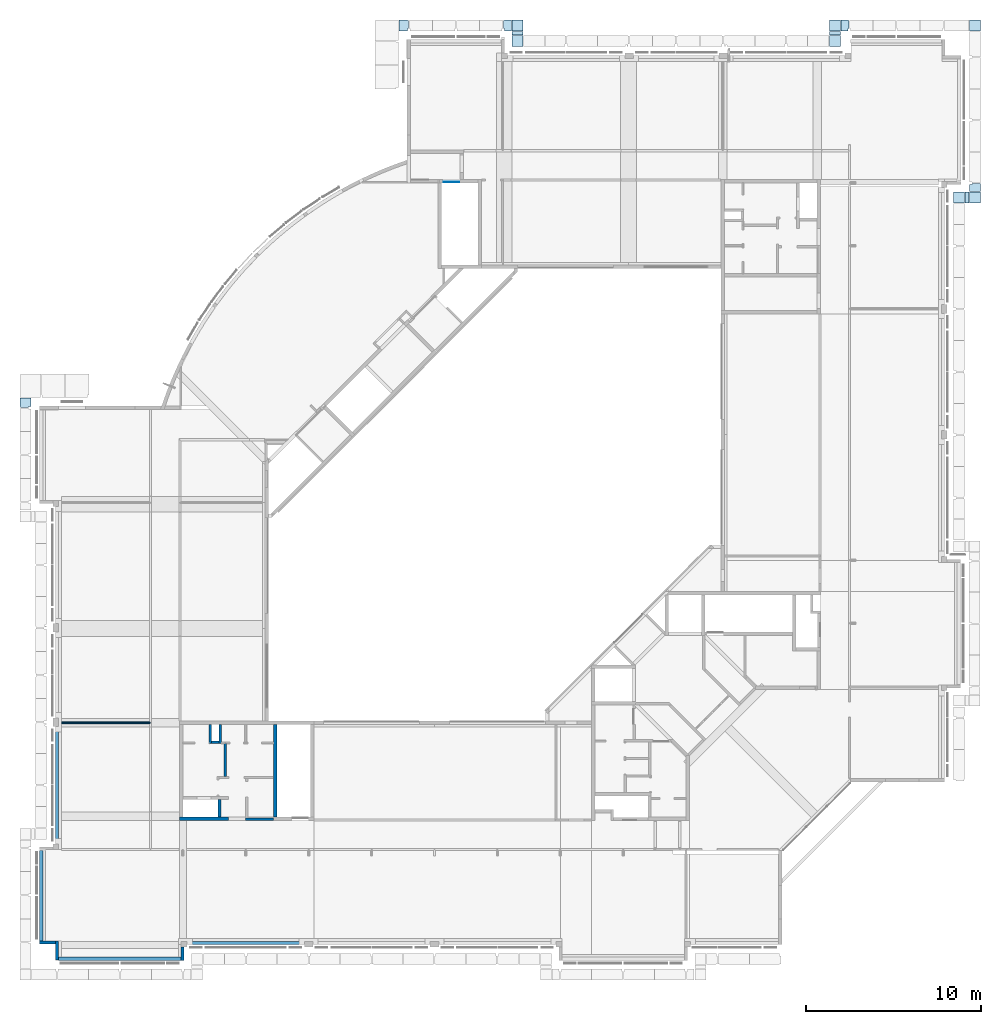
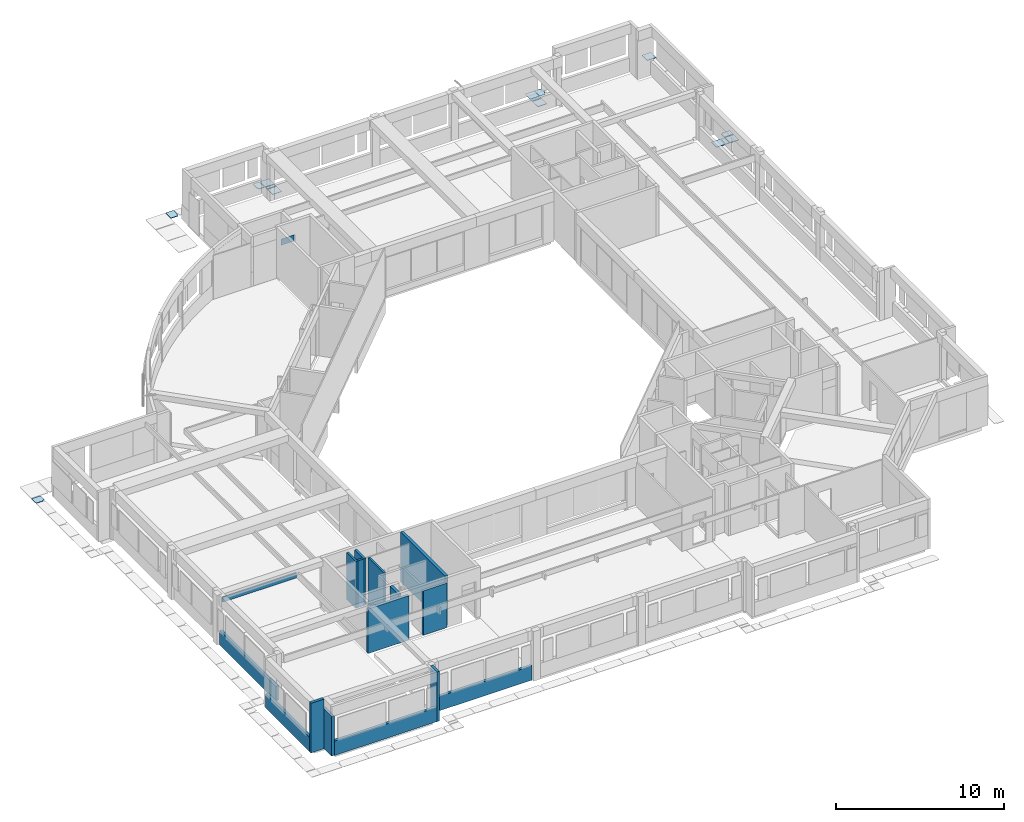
# One storey, part 11 of 26: 16 walls, 15 slabs, 1 plate.
"""IFC4X3_ADD2 building model written with IfcOpenShell, lengths in millimetres."""

from ifc_helpers import new_model, si_unit, direction, frame, frame_2d, origin_with_axes, origin_2d_with_axis, place, context, subcontext, project, spatial, polyline, rectangle, outline, extrude, source, transform, mapped, material, type_object, type_shapes, element, save


model = new_model("IFC4X3_ADD2")

# Units and contexts
model_context = context("Model", 3, precision=1e-05, world=origin_with_axes(), true_north=direction((0.0, 1.0)))
body_context = subcontext(model_context, "Body", "Model", "MODEL_VIEW")
ifc_project = project(units=[si_unit("LENGTHUNIT", "METRE", prefix="MILLI"), si_unit("AREAUNIT", "SQUARE_METRE"), si_unit("VOLUMEUNIT", "CUBIC_METRE"), si_unit("PLANEANGLEUNIT", "RADIAN"), si_unit("TIMEUNIT", "SECOND"), si_unit("MASSUNIT", "GRAM")], contexts=[model_context])

# Site, building, storey
site_placement = place(None, origin_with_axes())
site = spatial("IfcSite", under=ifc_project, at=site_placement, Name="Site", CompositionType="ELEMENT")
building_placement = place(site_placement, origin_with_axes())
building = spatial("IfcBuilding", under=site, at=building_placement, Name="IFC Building Story")
storey_placement = place(building_placement, frame((0.0, 0.0, 7200.0), z_axis=(0.0, 0.0, 1.0), x_axis=(1.0, 0.0, 0.0)))
storey = spatial("IfcBuildingStorey", under=building, at=storey_placement, Name="020", Elevation=7200.0)

# Plate
ifc_material_1 = material(Name="BB_Glas")
shared_shape_1 = source(origin_with_axes(), body_context, "Body", "SweptSolid", [
    extrude(rectangle(XDim=878.000000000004, YDim=454.000000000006, at=origin_2d_with_axis()), frame((0.0, 0.0, -17.0), z_axis=(0.0, 0.0, 1.0), x_axis=(1.0, 0.0, 0.0)), (0.0, 0.0, 1.0), 17.0),
])
plate_placement = place(storey_placement, frame((-28120.0, 43532.0, 2284.0), z_axis=(0.0, -1.0, 0.0), x_axis=(1.0, 0.0, 0.0)))
element("IfcPlate", 1, at=plate_placement, inside=storey, material=ifc_material_1, Name="BB_10.10_Binnenbeglazing, rechthoekig_GMO:XX_Geen", ObjectType="BB_10.10_Binnenbeglazing, rechthoekig_GMO:XX_Geen", PredefinedType="USERDEFINED", context=body_context, shape_type="MappedRepresentation", body=[
    mapped(shared_shape_1, transform((0.0, 0.0, 0.0))),
])

# Slabs
ifc_material_2 = material(Name="Steel, Galvanized - looprooster")
slab_type = type_object("IfcSlabType", Name="Steel, Galvanized - looprooster 30", PredefinedType="FLOOR", material=ifc_material_2)
slab_1_placement = place(storey_placement, frame((-52819.9983978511, 30644.99996376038, -350.0), z_axis=(0.0, 0.0, 1.0), x_axis=(1.0, 0.0, 0.0)))
element("IfcSlab", 2, at=slab_1_placement, inside=storey, type_object=slab_type, Name="Floor:GVH - Looprooster 30 mm", ObjectType="Floor:GVH - Looprooster 30 mm", PredefinedType="FLOOR", context=body_context, shape_type="SweptSolid", body=[
    extrude(outline(polyline([(-267.501716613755, -160.1252737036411), (-267.501716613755, -108.1254739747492), (-282.4994277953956, -108.1254739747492), (-282.4994277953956, 376.376021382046), (347.5005722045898, 376.376021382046), (347.5005722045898, -108.1252737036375), (202.5005722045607, -108.1252737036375), (202.5005722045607, -160.1252737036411), (-267.501716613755, -160.1252737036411)])), frame((282.4994277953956, 160.1252737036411, 0.0), z_axis=(0.0, 0.0, 1.0), x_axis=(1.0, 0.0, 0.0)), (0.0, 0.0, 1.0), 29.99999999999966),
])
slab_2_placement = place(storey_placement, frame((-31116.50125884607, 52819.99839785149, -350.0), z_axis=(0.0, 0.0, 1.0), x_axis=(0.0, -1.0, 0.0)))
element("IfcSlab", 3, at=slab_2_placement, inside=storey, type_object=slab_type, Name="Floor:GVH - Looprooster 30 mm", ObjectType="Floor:GVH - Looprooster 30 mm", PredefinedType="FLOOR", context=body_context, shape_type="SweptSolid", body=[
    extrude(outline(polyline([(202.5005722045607, 108.1253713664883), (347.5005722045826, 108.1253713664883), (347.5005722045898, -376.3759237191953), (-282.4994277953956, -376.3759237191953), (-282.4994277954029, 108.1251809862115), (-267.5017166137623, 108.1251809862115), (-267.5017166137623, 160.1253713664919), (202.5005722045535, 160.1253713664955), (202.5005722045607, 108.1253713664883)])), frame((282.4994277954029, 376.3759237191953, 0.0), z_axis=(0.0, 0.0, 1.0), x_axis=(1.0, 0.0, 0.0)), (0.0, 0.0, 1.0), 29.99999999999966),
])
slab_3_placement = place(storey_placement, frame((-24664.500106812, 52819.9983978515, -350.0), z_axis=(0.0, 0.0, 1.0), x_axis=(0.0, -1.0, 0.0)))
element("IfcSlab", 4, at=slab_3_placement, inside=storey, type_object=slab_type, Name="Floor:GVH - Looprooster 30 mm", ObjectType="Floor:GVH - Looprooster 30 mm", PredefinedType="FLOOR", context=body_context, shape_type="SweptSolid", body=[
    extrude(rectangle(XDim=629.9999999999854, YDim=629.9996566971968, at=frame_2d((0.0, 0.0), x_axis=(-1.0, 0.0))), frame((314.9999999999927, 314.9998283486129, 0.0), z_axis=(0.0, 0.0, 1.0), x_axis=(1.0, 0.0, 0.0)), (0.0, 0.0, 1.0), 29.99999999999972),
])
slab_4_placement = place(storey_placement, frame((-24664.500106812, 51919.99839785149, -350.0), z_axis=(0.0, 0.0, 1.0), x_axis=(0.0, -1.0, 0.0)))
element("IfcSlab", 5, at=slab_4_placement, inside=storey, type_object=slab_type, Name="Floor:GVH - Looprooster 30 mm", ObjectType="Floor:GVH - Looprooster 30 mm", PredefinedType="FLOOR", context=body_context, shape_type="SweptSolid", body=[
    extrude(rectangle(XDim=629.9999999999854, YDim=629.999656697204, at=frame_2d((0.0, 0.0), x_axis=(-1.0, 0.0))), frame((314.9999999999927, 314.9998283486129, 0.0), z_axis=(0.0, 0.0, 1.0), x_axis=(1.0, 0.0, 0.0)), (0.0, 0.0, 1.0), 29.99999999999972),
])
slab_5_placement = place(storey_placement, frame((-6495.001258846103, 52819.99839785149, -350.0), z_axis=(0.0, 0.0, 1.0), x_axis=(0.0, -1.0, 0.0)))
element("IfcSlab", 6, at=slab_5_placement, inside=storey, type_object=slab_type, Name="Floor:GVH - Looprooster 30 mm", ObjectType="Floor:GVH - Looprooster 30 mm", PredefinedType="FLOOR", context=body_context, shape_type="SweptSolid", body=[
    extrude(rectangle(XDim=629.9999999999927, YDim=629.9996566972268, at=frame_2d((0.0, 0.0), x_axis=(-1.0, 0.0))), frame((314.9999999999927, 314.9998283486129, 0.0), z_axis=(0.0, 0.0, 1.0), x_axis=(1.0, 0.0, 0.0)), (0.0, 0.0, 1.0), 29.99999999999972),
])
slab_6_placement = place(storey_placement, frame((-6495.000106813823, 51919.9983978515, -350.0), z_axis=(0.0, 0.0, 1.0), x_axis=(0.0, -1.0, 0.0)))
element("IfcSlab", 7, at=slab_6_placement, inside=storey, type_object=slab_type, Name="Floor:GVH - Looprooster 30 mm", ObjectType="Floor:GVH - Looprooster 30 mm", PredefinedType="FLOOR", context=body_context, shape_type="SweptSolid", body=[
    extrude(rectangle(XDim=629.9999999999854, YDim=629.9996566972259, at=frame_2d((0.0, 0.0), x_axis=(-1.0, 0.0))), frame((314.9999999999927, 314.9998283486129, 0.0), z_axis=(0.0, 0.0, 1.0), x_axis=(1.0, 0.0, 0.0)), (0.0, 0.0, 1.0), 29.99999999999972),
])
slab_7_placement = place(storey_placement, frame((589.9987411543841, 42980.0001068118, -350.0), z_axis=(0.0, 0.0, 1.0), x_axis=(0.0, -1.0, 0.0)))
element("IfcSlab", 8, at=slab_7_placement, inside=storey, type_object=slab_type, Name="Floor:GVH - Looprooster 30 mm", ObjectType="Floor:GVH - Looprooster 30 mm", PredefinedType="FLOOR", context=body_context, shape_type="SweptSolid", body=[
    extrude(rectangle(XDim=629.9999999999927, YDim=629.9996566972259, at=frame_2d((0.0, 0.0), x_axis=(-1.0, 0.0))), frame((314.9999999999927, 314.9998283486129, 0.0), z_axis=(0.0, 0.0, 1.0), x_axis=(1.0, 0.0, 0.0)), (0.0, 0.0, 1.0), 29.99999999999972),
])
slab_8_placement = place(storey_placement, frame((1524.998741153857, 42980.01839785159, -350.0), z_axis=(0.0, 0.0, 1.0), x_axis=(0.0, -1.0, 0.0)))
element("IfcSlab", 9, at=slab_8_placement, inside=storey, type_object=slab_type, Name="Floor:GVH - Looprooster 30 mm", ObjectType="Floor:GVH - Looprooster 30 mm", PredefinedType="FLOOR", context=body_context, shape_type="SweptSolid", body=[
    extrude(rectangle(XDim=630.6134735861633, YDim=629.9996566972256, at=frame_2d((0.0, 0.0), x_axis=(-1.0, 0.0))), frame((315.306736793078, 314.9998283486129, 0.0), z_axis=(0.0, 0.0, 1.0), x_axis=(1.0, 0.0, 0.0)), (0.0, 0.0, 1.0), 29.99999999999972),
])
slab_9_placement = place(storey_placement, frame((-24664.50010681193, 51954.9983978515, -350.0), z_axis=(0.0, 0.0, 1.0), x_axis=(1.0, 0.0, 0.0)))
element("IfcSlab", 10, at=slab_9_placement, inside=storey, type_object=slab_type, Name="Floor:GVH - Looprooster 30 mm", ObjectType="Floor:GVH - Looprooster 30 mm", PredefinedType="FLOOR", context=body_context, shape_type="SweptSolid", body=[
    extrude(rectangle(XDim=630.0014381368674, YDim=199.9999999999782, at=origin_2d_with_axis()), frame((315.00071906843, 99.99999999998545, 0.0), z_axis=(0.0, 0.0, 1.0), x_axis=(1.0, 0.0, 0.0)), (0.0, 0.0, 1.0), 29.99999999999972),
])
slab_10_placement = place(storey_placement, frame((-25149.99996376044, 52819.99950666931, -350.0), z_axis=(0.0, 0.0, 1.0), x_axis=(0.0, -1.0, 0.0)))
element("IfcSlab", 11, at=slab_10_placement, inside=storey, type_object=slab_type, Name="Floor:GVH - Looprooster 30 mm", ObjectType="Floor:GVH - Looprooster 30 mm", PredefinedType="FLOOR", context=body_context, shape_type="SweptSolid", body=[
    extrude(outline(polyline([(347.500575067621, -85.62712840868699), (202.500575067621, -85.62712840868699), (202.500575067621, -137.6271284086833), (-267.5011650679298, -137.627128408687), (-267.5011650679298, -85.61731968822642), (-282.4999850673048, -85.61731968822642), (-282.4999850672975, 308.8715765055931), (347.500575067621, 308.8715765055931), (347.500575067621, -85.62712840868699)])), frame((282.4999850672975, 137.627128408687, 0.0), z_axis=(0.0, 0.0, 1.0), x_axis=(1.0, 0.0, 0.0)), (0.0, 0.0, 1.0), 29.99999999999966),
])
slab_11_placement = place(storey_placement, frame((-6495.001258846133, 51954.99839785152, -350.0), z_axis=(0.0, 0.0, 1.0), x_axis=(1.0, 0.0, 0.0)))
element("IfcSlab", 12, at=slab_11_placement, inside=storey, type_object=slab_type, Name="Floor:GVH - Looprooster 30 mm", ObjectType="Floor:GVH - Looprooster 30 mm", PredefinedType="FLOOR", context=body_context, shape_type="SweptSolid", body=[
    extrude(rectangle(XDim=629.999656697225, YDim=199.9999999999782, at=origin_2d_with_axis()), frame((314.9998283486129, 99.99999999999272, 0.0), z_axis=(0.0, 0.0, 1.0), x_axis=(1.0, 0.0, 0.0)), (0.0, 0.0, 1.0), 29.99999999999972),
])
slab_12_placement = place(storey_placement, frame((1254.998397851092, 42980.00010681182, -350.0), z_axis=(0.0, 0.0, 1.0), x_axis=(0.0, -1.0, 0.0)))
element("IfcSlab", 13, at=slab_12_placement, inside=storey, type_object=slab_type, Name="Floor:GVH - Looprooster 30 mm", ObjectType="Floor:GVH - Looprooster 30 mm", PredefinedType="FLOOR", context=body_context, shape_type="SweptSolid", body=[
    extrude(rectangle(XDim=629.9996566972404, YDim=235.0003433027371, at=frame_2d((0.0, 0.0), x_axis=(-1.0, 0.0))), frame((314.9998283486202, 117.5001716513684, 0.0), z_axis=(0.0, 0.0, 1.0), x_axis=(1.0, 0.0, 0.0)), (0.0, 0.0, 1.0), 29.99999999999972),
])
slab_13_placement = place(storey_placement, frame((1524.998741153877, 52819.9983978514, -350.0), z_axis=(0.0, 0.0, 1.0), x_axis=(0.0, -1.0, 0.0)))
element("IfcSlab", 14, at=slab_13_placement, inside=storey, type_object=slab_type, Name="Floor:GVH - Looprooster 30 mm", ObjectType="Floor:GVH - Looprooster 30 mm", PredefinedType="FLOOR", context=body_context, shape_type="SweptSolid", body=[
    extrude(rectangle(XDim=629.9999999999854, YDim=629.9996566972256, at=frame_2d((0.0, 0.0), x_axis=(-1.0, 0.0))), frame((314.9999999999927, 314.9998283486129, 0.0), z_axis=(0.0, 0.0, 1.0), x_axis=(1.0, 0.0, 0.0)), (0.0, 0.0, 1.0), 29.99999999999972),
])
slab_14_placement = place(storey_placement, frame((-5826.504006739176, 52819.99839785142, -350.0), z_axis=(0.0, 0.0, 1.0), x_axis=(0.0, -1.0, 0.0)))
element("IfcSlab", 15, at=slab_14_placement, inside=storey, type_object=slab_type, Name="Floor:GVH - Looprooster 30 mm", ObjectType="Floor:GVH - Looprooster 30 mm", PredefinedType="FLOOR", context=body_context, shape_type="SweptSolid", body=[
    extrude(outline(polyline([(202.4987412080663, 85.62600306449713), (347.5011825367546, 85.62600306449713), (347.5011825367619, -308.8780399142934), (-282.4988174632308, -308.8780399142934), (-282.4988174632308, 85.62603378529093), (-267.5011062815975, 85.62603378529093), (-267.5011062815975, 137.6260030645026), (202.4987412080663, 137.6260030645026), (202.4987412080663, 85.62600306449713)])), frame((282.4988174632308, 308.8780399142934, 0.0), z_axis=(0.0, 0.0, 1.0), x_axis=(1.0, 0.0, 0.0)), (0.0, 0.0, 1.0), 29.99999999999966),
])
slab_15_placement = place(storey_placement, frame((1524.998741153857, 43018.49954988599, -350.0), z_axis=(0.0, 0.0, 1.0), x_axis=(1.0, 0.0, 0.0)))
element("IfcSlab", 16, at=slab_15_placement, inside=storey, type_object=slab_type, Name="Floor:GVH - Looprooster 30 mm", ObjectType="Floor:GVH - Looprooster 30 mm", PredefinedType="FLOOR", context=body_context, shape_type="SweptSolid", body=[
    extrude(outline(polyline([(282.499218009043, 85.62557600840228), (282.499218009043, -308.8749103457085), (-347.5004386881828, -308.8749103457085), (-347.5004386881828, 85.62379456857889), (-202.4983406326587, 85.62379456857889), (-202.4983406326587, 137.6255397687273), (267.4995613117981, 137.6255397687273), (267.4995613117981, 85.62557600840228), (282.499218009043, 85.62557600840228)])), frame((347.5004386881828, 308.8749103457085, 0.0), z_axis=(0.0, 0.0, 1.0), x_axis=(1.0, 0.0, 0.0)), (0.0, 0.0, 1.0), 29.99999999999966),
])

# Walls
ifc_material_3 = material(Name="BB_Beton_Bestaand")
wall_type_1 = type_object("IfcWallType", Name="BB_Beton_Bestaand 200", PredefinedType="NOTDEFINED", material=ifc_material_3)
wall_1_placement = place(storey_placement, origin_with_axes())
element("IfcWall", 17, at=wall_1_placement, inside=storey, type_object=wall_type_1, Name="Basic Wall:BB_XX_Wand uit beton, 200 mm", ObjectType="Basic Wall:BB_XX_Wand uit beton, 200 mm", PredefinedType="SOLIDWALL", context=body_context, shape_type="SweptSolid", body=[
    extrude(rectangle(XDim=2800.000000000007, YDim=200.0, at=origin_2d_with_axis()), frame((-42300.0, 7100.0, -80.0), z_axis=(0.0, 0.0, 1.0), x_axis=(1.0, 0.0, 0.0)), (0.0, 0.0, 1.0), 3220.0),
])
wall_2_placement = place(storey_placement, origin_with_axes())
element("IfcWall", 18, at=wall_2_placement, inside=storey, type_object=wall_type_1, Name="Basic Wall:BB_XX_Wand uit beton, 200 mm", ObjectType="Basic Wall:BB_XX_Wand uit beton, 200 mm", PredefinedType="SOLIDWALL", context=body_context, shape_type="SweptSolid", body=[
    extrude(rectangle(XDim=5300.004065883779, YDim=200.0, at=frame_2d((0.0, 0.0), x_axis=(0.0, 1.0))), frame((-38200.0, 9850.00203294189, -80.0), z_axis=(0.0, 0.0, 1.0), x_axis=(1.0, 0.0, 0.0)), (0.0, 0.0, 1.0), 3600.0),
])
wall_type_2 = type_object("IfcWallType", Name="BB_Beton_Bestaand 190", PredefinedType="NOTDEFINED", material=ifc_material_3)
wall_3_placement = place(storey_placement, origin_with_axes())
element("IfcWall", 19, at=wall_3_placement, inside=storey, type_object=wall_type_2, Name="Basic Wall:BB_XX_Wand uit beton, 190 mm", ObjectType="Basic Wall:BB_XX_Wand uit beton, 190 mm", PredefinedType="SOLIDWALL", context=body_context, shape_type="SweptSolid", body=[
    extrude(rectangle(XDim=7010.000000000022, YDim=190.0, at=origin_2d_with_axis()), frame((-47100.0, -900.0, -200.0), z_axis=(0.0, 0.0, 1.0), x_axis=(1.0, 0.0, 0.0)), (0.0, 0.0, 1.0), 1040.0),
])
wall_4_placement = place(storey_placement, origin_with_axes())
element("IfcWall", 20, at=wall_4_placement, inside=storey, type_object=wall_type_2, Name="Basic Wall:BB_XX_Wand uit beton, 190 mm", ObjectType="Basic Wall:BB_XX_Wand uit beton, 190 mm", PredefinedType="SOLIDWALL", context=body_context, shape_type="SweptSolid", body=[
    extrude(rectangle(XDim=1089.99999999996, YDim=189.9999999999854, at=frame_2d((0.0, 0.0), x_axis=(0.0, 1.0))), frame((-50700.0, -420.00000000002, -200.0), z_axis=(0.0, 0.0, 1.0), x_axis=(1.0, 0.0, 0.0)), (0.0, 0.0, 1.0), 2880.0),
])
wall_5_placement = place(storey_placement, origin_with_axes())
element("IfcWall", 21, at=wall_5_placement, inside=storey, type_object=wall_type_2, Name="Basic Wall:BB_XX_Wand uit beton, 190 mm", ObjectType="Basic Wall:BB_XX_Wand uit beton, 190 mm", PredefinedType="SOLIDWALL", context=body_context, shape_type="SweptSolid", body=[
    extrude(rectangle(XDim=900.0000000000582, YDim=190.0, at=origin_2d_with_axis()), frame((-51245.0, 30.0, -200.0), z_axis=(0.0, 0.0, 1.0), x_axis=(1.0, 0.0, 0.0)), (0.0, 0.0, 1.0), 3600.0),
])
wall_6_placement = place(storey_placement, origin_with_axes())
element("IfcWall", 22, at=wall_6_placement, inside=storey, type_object=wall_type_2, Name="Basic Wall:BB_XX_Wand uit beton, 190 mm", ObjectType="Basic Wall:BB_XX_Wand uit beton, 190 mm", PredefinedType="SOLIDWALL", context=body_context, shape_type="SweptSolid", body=[
    extrude(rectangle(XDim=5210.00000000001, YDim=189.9999999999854, at=frame_2d((0.0, 0.0), x_axis=(0.0, 1.0))), frame((-51600.0, 2700.0, -200.0), z_axis=(0.0, 0.0, 1.0), x_axis=(1.0, 0.0, 0.0)), (0.0, 0.0, 1.0), 1040.0),
])
wall_7_placement = place(storey_placement, origin_with_axes())
element("IfcWall", 23, at=wall_7_placement, inside=storey, type_object=wall_type_2, Name="Basic Wall:BB_XX_Wand uit beton, 190 mm", ObjectType="Basic Wall:BB_XX_Wand uit beton, 190 mm", PredefinedType="SOLIDWALL", context=body_context, shape_type="SweptSolid", body=[
    extrude(rectangle(XDim=6709.999999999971, YDim=189.9999999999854, at=frame_2d((0.0, 0.0), x_axis=(0.0, 1.0))), frame((-50700.0, 9000.000000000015, -200.0), z_axis=(0.0, 0.0, 1.0), x_axis=(1.0, 0.0, 0.0)), (0.0, 0.0, 1.0), 1040.0),
])
wall_8_placement = place(storey_placement, origin_with_axes())
element("IfcWall", 24, at=wall_8_placement, inside=storey, type_object=wall_type_2, Name="Basic Wall:BB_XX_Wand uit beton, 190 mm", ObjectType="Basic Wall:BB_XX_Wand uit beton, 190 mm", PredefinedType="SOLIDWALL", context=body_context, shape_type="SweptSolid", body=[
    extrude(rectangle(XDim=6710.0, YDim=190.0, at=origin_2d_with_axis()), frame((-39900.0, 0.0, -200.0), z_axis=(0.0, 0.0, 1.0), x_axis=(1.0, 0.0, 0.0)), (0.0, 0.0, 1.0), 1040.0),
])
wall_type_3 = type_object("IfcWallType", Name="BB_Beton_Bestaand 170", PredefinedType="NOTDEFINED", material=ifc_material_3)
wall_9_placement = place(storey_placement, origin_with_axes())
element("IfcWall", 25, at=wall_9_placement, inside=storey, type_object=wall_type_3, Name="Basic Wall:BB_XX_Wand uit beton, 170 mm", ObjectType="Basic Wall:BB_XX_Wand uit beton, 170 mm", PredefinedType="SOLIDWALL", context=body_context, shape_type="SweptSolid", body=[
    extrude(rectangle(XDim=750.000000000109, YDim=170.0, at=frame_2d((0.0, 0.0), x_axis=(0.0, 1.0))), frame((-43510.0, -620.0000000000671, -200.0), z_axis=(0.0, 0.0, 1.0), x_axis=(1.0, 0.0, 0.0)), (0.0, 0.0, 1.0), 3600.0),
])
ifc_material_4 = material(Name="BB_Metselwerk_Bestaand")
wall_type_4 = type_object("IfcWallType", Name="BB_Metselwerk_Bestaand 140", PredefinedType="NOTDEFINED", material=ifc_material_4)
wall_10_placement = place(storey_placement, origin_with_axes())
element("IfcWall", 26, at=wall_10_placement, inside=storey, type_object=wall_type_4, Name="Basic Wall:BB_XX_Wand uit metselwerk, 140 mm", ObjectType="Basic Wall:BB_XX_Wand uit metselwerk, 140 mm", PredefinedType="SOLIDWALL", context=body_context, shape_type="SweptSolid", body=[
    extrude(rectangle(XDim=1609.999999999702, YDim=140.0, at=origin_2d_with_axis()), frame((-39104.99999999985, 7070.0, -80.0), z_axis=(0.0, 0.0, 1.0), x_axis=(1.0, 0.0, 0.0)), (0.0, 0.0, 1.0), 3220.0),
])
wall_11_placement = place(storey_placement, origin_with_axes())
element("IfcWall", 27, at=wall_11_placement, inside=storey, type_object=wall_type_4, Name="Basic Wall:BB_XX_Wand uit metselwerk, 140 mm", ObjectType="Basic Wall:BB_XX_Wand uit metselwerk, 140 mm", PredefinedType="SOLIDWALL", context=body_context, shape_type="SweptSolid", body=[
    extrude(rectangle(XDim=1870.00406588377, YDim=140.0, at=frame_2d((0.0, 0.0), x_axis=(0.0, 1.0))), frame((-41080.0, 10475.00203294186, -80.0), z_axis=(0.0, 0.0, 1.0), x_axis=(1.0, 0.0, 0.0)), (0.0, 0.0, 1.0), 3400.0),
])
wall_12_placement = place(storey_placement, origin_with_axes())
element("IfcWall", 28, at=wall_12_placement, inside=storey, type_object=wall_type_4, Name="Basic Wall:BB_XX_Wand uit metselwerk, 140 mm", ObjectType="Basic Wall:BB_XX_Wand uit metselwerk, 140 mm", PredefinedType="SOLIDWALL", context=body_context, shape_type="SweptSolid", body=[
    extrude(rectangle(XDim=1090.00000000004, YDim=140.0, at=frame_2d((0.0, 0.0), x_axis=(0.0, 1.0))), frame((-41920.0, 11955.00406588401, -80.0), z_axis=(0.0, 0.0, 1.0), x_axis=(1.0, 0.0, 0.0)), (0.0, 0.0, 1.0), 3400.0),
])
wall_13_placement = place(storey_placement, origin_with_axes())
element("IfcWall", 29, at=wall_13_placement, inside=storey, type_object=wall_type_4, Name="Basic Wall:BB_XX_Wand uit metselwerk, 140 mm", ObjectType="Basic Wall:BB_XX_Wand uit metselwerk, 140 mm", PredefinedType="SOLIDWALL", context=body_context, shape_type="SweptSolid", body=[
    extrude(rectangle(XDim=409.9999999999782, YDim=140.0, at=origin_2d_with_axis()), frame((-41645.0, 11480.004065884, -80.0), z_axis=(0.0, 0.0, 1.0), x_axis=(1.0, 0.0, 0.0)), (0.0, 0.0, 1.0), 3400.0),
])
wall_14_placement = place(storey_placement, origin_with_axes())
element("IfcWall", 30, at=wall_14_placement, inside=storey, type_object=wall_type_4, Name="Basic Wall:BB_XX_Wand uit metselwerk, 140 mm", ObjectType="Basic Wall:BB_XX_Wand uit metselwerk, 140 mm", PredefinedType="SOLIDWALL", context=body_context, shape_type="SweptSolid", body=[
    extrude(rectangle(XDim=1090.00000000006, YDim=140.0, at=frame_2d((0.0, 0.0), x_axis=(0.0, 1.0))), frame((-41370.0, 11955.004065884, -80.0), z_axis=(0.0, 0.0, 1.0), x_axis=(1.0, 0.0, 0.0)), (0.0, 0.0, 1.0), 3400.0),
])
wall_type_5 = type_object("IfcWallType", Name="BB_Metselwerk_Bestaand 190", PredefinedType="NOTDEFINED", material=ifc_material_4)
wall_15_placement = place(storey_placement, origin_with_axes())
element("IfcWall", 31, at=wall_15_placement, inside=storey, type_object=wall_type_5, Name="Basic Wall:BB_XX_Wand uit metselwerk, 190 mm", ObjectType="Basic Wall:BB_XX_Wand uit metselwerk, 190 mm", PredefinedType="SOLIDWALL", context=body_context, shape_type="SweptSolid", body=[
    extrude(rectangle(XDim=999.9999999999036, YDim=189.9999999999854, at=frame_2d((0.0, 0.0), x_axis=(0.0, 1.0))), frame((-41405.0, 7700.00000000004, -80.0), z_axis=(0.0, 0.0, 1.0), x_axis=(1.0, 0.0, 0.0)), (0.0, 0.0, 1.0), 3400.0),
])
wall_type_6 = type_object("IfcWallType", Name="Basic Wall_BB_10.01.41#01_Gipskartonwand_MS100 _ 25.50.25_ 100 mm119", PredefinedType="NOTDEFINED")
shared_shape_2 = source(origin_with_axes(), body_context, "Body", "SweptSolid", [
    extrude(rectangle(XDim=5044.99999999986, YDim=12.49999999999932, at=origin_2d_with_axis()), frame((2522.49999999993, 43.74999999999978, 0.0), z_axis=(0.0, 0.0, 1.0), x_axis=(1.0, 0.0, 0.0)), (0.0, 0.0, 1.0), 360.0),
    extrude(rectangle(XDim=5044.99999999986, YDim=12.49999999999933, at=origin_2d_with_axis()), frame((2522.49999999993, 31.25000000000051, 0.0), z_axis=(0.0, 0.0, 1.0), x_axis=(1.0, 0.0, 0.0)), (0.0, 0.0, 1.0), 360.0),
    extrude(rectangle(XDim=5079.99999999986, YDim=50.0000000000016, at=origin_2d_with_axis()), frame((2515.0, 0.0, 0.0), z_axis=(0.0, 0.0, 1.0), x_axis=(1.0, 0.0, 0.0)), (0.0, 0.0, 1.0), 360.0),
    extrude(rectangle(XDim=5057.49999999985, YDim=12.49999999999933, at=origin_2d_with_axis()), frame((2516.249999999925, -31.25000000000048, 0.0), z_axis=(0.0, 0.0, 1.0), x_axis=(1.0, 0.0, 0.0)), (0.0, 0.0, 1.0), 360.0),
    extrude(rectangle(XDim=5044.99999999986, YDim=12.49999999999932, at=origin_2d_with_axis()), frame((2522.49999999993, -43.74999999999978, 0.0), z_axis=(0.0, 0.0, 1.0), x_axis=(1.0, 0.0, 0.0)), (0.0, 0.0, 1.0), 360.0),
])
type_shapes(wall_type_6, [shared_shape_2])
wall_16_placement = place(storey_placement, frame((-45400.0, 12600.0, 2640.0), z_axis=(0.0, 0.0, 1.0), x_axis=(-1.0, 0.0, 0.0)))
element("IfcWall", 32, at=wall_16_placement, inside=storey, type_object=wall_type_6, Name="Basic Wall:BB_10.01.41#01_Gipskartonwand_MS100 / 25.50.25, 100 mm", ObjectType="Basic Wall:BB_10.01.41#01_Gipskartonwand_MS100 / 25.50.25, 100 mm", PredefinedType="PARTITIONING", context=body_context, shape_type="MappedRepresentation", body=[
    mapped(shared_shape_2, transform((0.0, 0.0, 0.0))),
])

save(model, "model.ifc")
